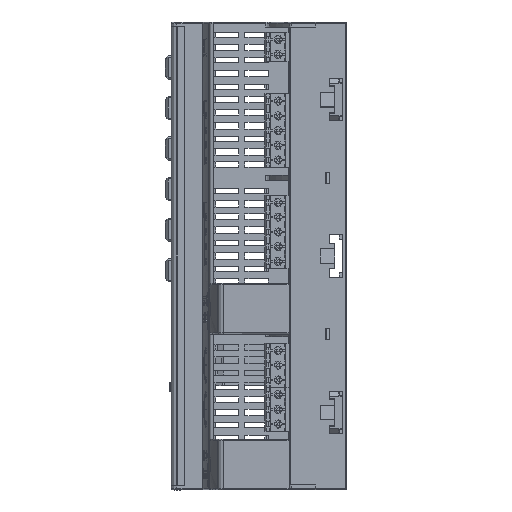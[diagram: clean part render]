
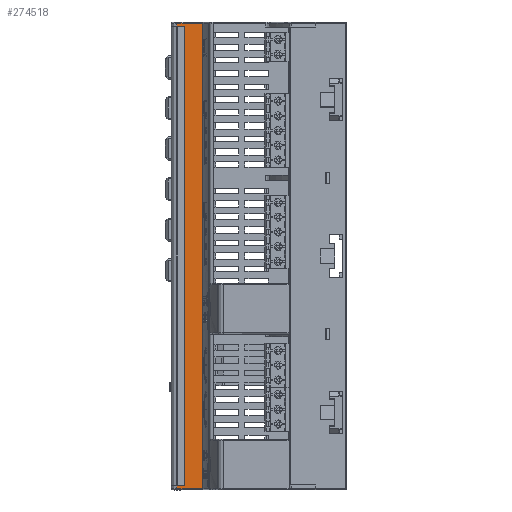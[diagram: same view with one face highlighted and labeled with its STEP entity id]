
A CAD part, left-side view. The second image highlights one B-rep face of the part: STEP entity #274518.
In plain terms, the highlighted planar face has unit normal (-1, 0, 0).
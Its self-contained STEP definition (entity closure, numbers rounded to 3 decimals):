
#7722 = ORIENTED_EDGE ( 'NONE', *, *, #229058, .F. ) ;
#40142 = CARTESIAN_POINT ( 'NONE',  ( -28.15, -46.133, -161.2 ) ) ;
#53134 = DIRECTION ( 'NONE',  ( 0., 1., 0. ) ) ;
#59793 = VECTOR ( 'NONE', #252189, 1000. ) ;
#80706 = CARTESIAN_POINT ( 'NONE',  ( -28.15, -52.2, -1.6 ) ) ;
#86894 = EDGE_CURVE ( 'NONE', #608116, #212786, #377275, .T. ) ;
#89231 = LINE ( 'NONE', #499889, #232101 ) ;
#106614 = VERTEX_POINT ( 'NONE', #325577 ) ;
#122492 = EDGE_CURVE ( 'NONE', #106614, #475028, #467203, .T. ) ;
#123785 = LINE ( 'NONE', #625794, #477175 ) ;
#124836 = DIRECTION ( 'NONE',  ( 0., 0., 1. ) ) ;
#145354 = VERTEX_POINT ( 'NONE', #592185 ) ;
#147888 = CARTESIAN_POINT ( 'NONE',  ( -28.15, -46.133, -161.2 ) ) ;
#168751 = DIRECTION ( 'NONE',  ( 0., -1., 0. ) ) ;
#181827 = DIRECTION ( 'NONE',  ( 0., -1., 0. ) ) ;
#194256 = FACE_OUTER_BOUND ( 'NONE', #417717, .T. ) ;
#212786 = VERTEX_POINT ( 'NONE', #380333 ) ;
#229058 = EDGE_CURVE ( 'NONE', #212786, #594381, #279671, .T. ) ;
#232101 = VECTOR ( 'NONE', #53134, 1000. ) ;
#250663 = CARTESIAN_POINT ( 'NONE',  ( -28.15, -52.2, -160.2 ) ) ;
#251929 = EDGE_CURVE ( 'NONE', #106614, #608116, #89231, .T. ) ;
#252189 = DIRECTION ( 'NONE',  ( 0., 0., 1. ) ) ;
#274518 = ADVANCED_FACE ( 'NONE', ( #194256 ), #592112, .T. ) ;
#279671 = LINE ( 'NONE', #374313, #445541 ) ;
#282384 = VECTOR ( 'NONE', #168751, 1000. ) ;
#295025 = CARTESIAN_POINT ( 'NONE',  ( -28.15, -55., -160.2 ) ) ;
#295774 = VECTOR ( 'NONE', #124836, 1000. ) ;
#313100 = ORIENTED_EDGE ( 'NONE', *, *, #469481, .T. ) ;
#318887 = VECTOR ( 'NONE', #632761, 1000. ) ;
#321793 = ORIENTED_EDGE ( 'NONE', *, *, #86894, .F. ) ;
#325577 = CARTESIAN_POINT ( 'NONE',  ( -28.15, -55., -161.2 ) ) ;
#327797 = VERTEX_POINT ( 'NONE', #80706 ) ;
#329628 = LINE ( 'NONE', #635993, #318887 ) ;
#354543 = ORIENTED_EDGE ( 'NONE', *, *, #548096, .F. ) ;
#354766 = LINE ( 'NONE', #517544, #282384 ) ;
#357194 = CARTESIAN_POINT ( 'NONE',  ( -28.15, -55., -0.6 ) ) ;
#359125 = CARTESIAN_POINT ( 'NONE',  ( -28.15, -55., -0.6 ) ) ;
#374313 = CARTESIAN_POINT ( 'NONE',  ( -28.15, -46.133, -0.6 ) ) ;
#377275 = LINE ( 'NONE', #147888, #59793 ) ;
#377389 = EDGE_CURVE ( 'NONE', #481374, #475028, #354766, .T. ) ;
#380333 = CARTESIAN_POINT ( 'NONE',  ( -28.15, -46.133, -0.6 ) ) ;
#393589 = AXIS2_PLACEMENT_3D ( 'NONE', #357194, #556014, #503894 ) ;
#395138 = LINE ( 'NONE', #505870, #495263 ) ;
#417717 = EDGE_LOOP ( 'NONE', ( #321793, #523821, #478276, #439086, #313100, #354543, #611718, #7722 ) ) ;
#426840 = DIRECTION ( 'NONE',  ( 0., 1., 0. ) ) ;
#427900 = CARTESIAN_POINT ( 'NONE',  ( -28.15, -55., -161.2 ) ) ;
#439086 = ORIENTED_EDGE ( 'NONE', *, *, #377389, .F. ) ;
#445541 = VECTOR ( 'NONE', #181827, 1000. ) ;
#467143 = EDGE_CURVE ( 'NONE', #594381, #145354, #395138, .T. ) ;
#467203 = LINE ( 'NONE', #427900, #295774 ) ;
#469481 = EDGE_CURVE ( 'NONE', #481374, #327797, #329628, .T. ) ;
#475028 = VERTEX_POINT ( 'NONE', #295025 ) ;
#477175 = VECTOR ( 'NONE', #426840, 1000. ) ;
#478276 = ORIENTED_EDGE ( 'NONE', *, *, #122492, .T. ) ;
#481374 = VERTEX_POINT ( 'NONE', #250663 ) ;
#495263 = VECTOR ( 'NONE', #594072, 1000. ) ;
#499889 = CARTESIAN_POINT ( 'NONE',  ( -28.15, -55., -161.2 ) ) ;
#503894 = DIRECTION ( 'NONE',  ( 0., 1., 0. ) ) ;
#505870 = CARTESIAN_POINT ( 'NONE',  ( -28.15, -55., -0.6 ) ) ;
#517544 = CARTESIAN_POINT ( 'NONE',  ( -28.15, -52.2, -160.2 ) ) ;
#523821 = ORIENTED_EDGE ( 'NONE', *, *, #251929, .F. ) ;
#548096 = EDGE_CURVE ( 'NONE', #145354, #327797, #123785, .T. ) ;
#556014 = DIRECTION ( 'NONE',  ( -1., 0., 0. ) ) ;
#592112 = PLANE ( 'NONE',  #393589 ) ;
#592185 = CARTESIAN_POINT ( 'NONE',  ( -28.15, -55., -1.6 ) ) ;
#594072 = DIRECTION ( 'NONE',  ( 0., 0., -1. ) ) ;
#594381 = VERTEX_POINT ( 'NONE', #359125 ) ;
#608116 = VERTEX_POINT ( 'NONE', #40142 ) ;
#611718 = ORIENTED_EDGE ( 'NONE', *, *, #467143, .F. ) ;
#625794 = CARTESIAN_POINT ( 'NONE',  ( -28.15, -55., -1.6 ) ) ;
#632761 = DIRECTION ( 'NONE',  ( 0., 0., 1. ) ) ;
#635993 = CARTESIAN_POINT ( 'NONE',  ( -28.15, -52.2, -160.2 ) ) ;
